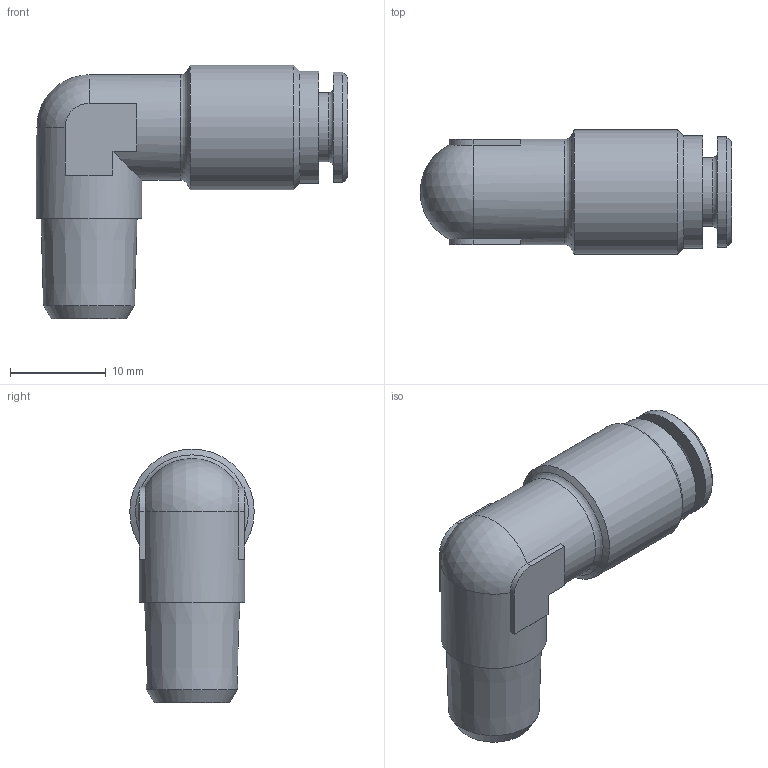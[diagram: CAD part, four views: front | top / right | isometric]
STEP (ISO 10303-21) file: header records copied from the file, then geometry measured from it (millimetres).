
FILE_DESCRIPTION(/* description */ (''),/* implementation_level */ '2;1');
FILE_NAME(/* name */ 'H190618_HDS_019_6_1-8',/* time_stamp */ '2016-12-09T08:40:59+01:00',/* author */ (''),/* organization */ (''),/* preprocessor_version */ 'ST-DEVELOPER v16.5',/* originating_system */ 'HiCAD 2016 2102.0 Build 402',/* authorisation */ '');
FILE_SCHEMA (('AUTOMOTIVE_DESIGN { 1 0 10303 214 1 1 1 1 }'));
Length unit declared in the file: millimetre
Products named in the file (3): Root; DR6-C_HDX_25.07.16; RH190618
Assembly tree (2 placements, depth 2):
  Root
    DR6-C_HDX_25.07.16
    RH190618
Bounding box: 32.5 x 13 x 26.5 mm (x, y, z)
Volume: 3053.8 mm3; surface area: 3433.4 mm2
Topology: 2 solids, 2 shells, 61 faces, 135 edges, 81 vertices
Faces by surface type: plane 26, cylinder 15, cone 14, torus 5, sphere 1
Full cylindrical faces by diameter (mm): 4 x1, 5.5 x1, 6.2 x1, 6.3 x1, 7.2 x1, 9.9 x1, 10 x1, 10.3 x1, 11 x2, 11.5 x1, 11.7 x1, 13 x1
Entity records: 2637 total; most frequent: CARTESIAN_POINT 424, DIRECTION 274, PRESENTATION_STYLE_ASSIGNMENT 192, COLOUR_RGB 192, DRAUGHTING_PRE_DEFINED_CURVE_FONT 190, CURVE_STYLE 190, OVER_RIDING_STYLED_ITEM 190, ORIENTED_EDGE 190
